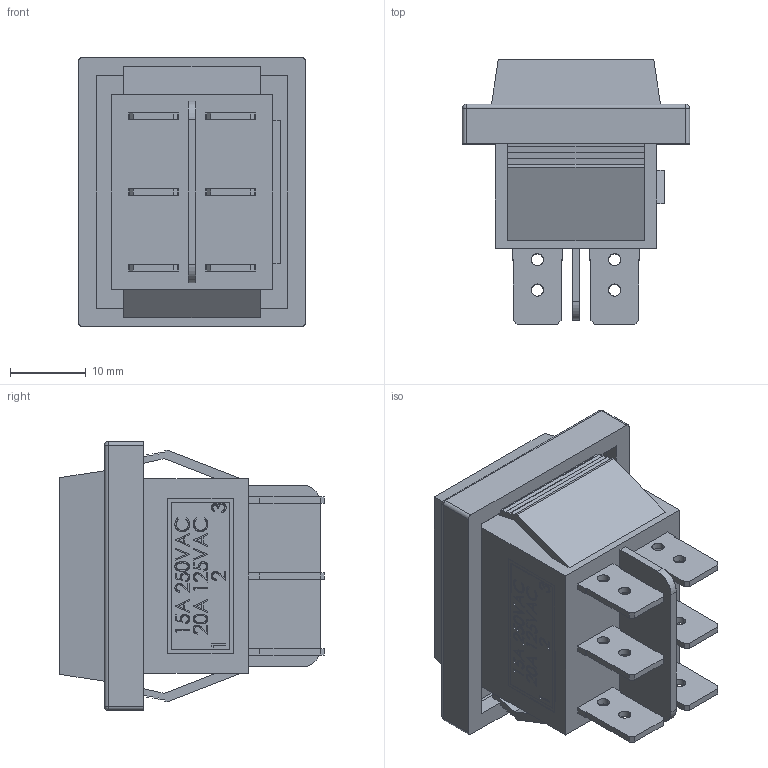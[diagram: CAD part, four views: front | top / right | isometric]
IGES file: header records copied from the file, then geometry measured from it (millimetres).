
Start section: SolidWorks IGES file using analytic representation for surfaces
Global section: file name: D:\X - Arquivos\PROEX\Empresas\P11 - METALTEX\01 - Produtos\IGES\Terceira remessa\RS-203-1C-B.IGS; native system: SolidWorks 2012; preprocessor: SolidWorks 2012; author: Usuario; date: 180207.113528; units: millimetre
Bounding box: 30 x 34.9 x 35.45 mm (x, y, z)
Surface area: 9581.8 mm2 (no closed solid volume)
Topology: 0 solids, 0 shells, 571 faces, 5060 edges, 5056 vertices
Faces by surface type: bspline 525, revolution 46
